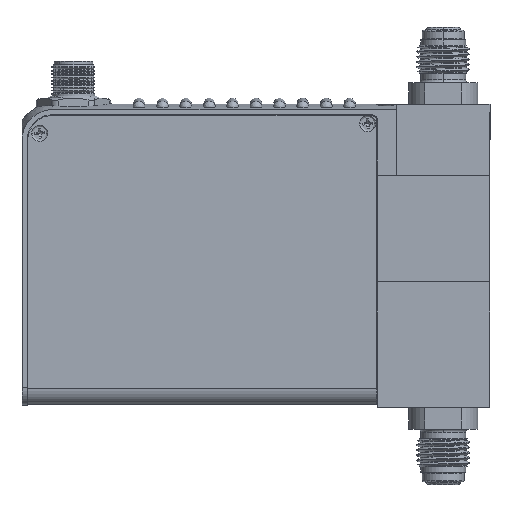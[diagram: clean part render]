
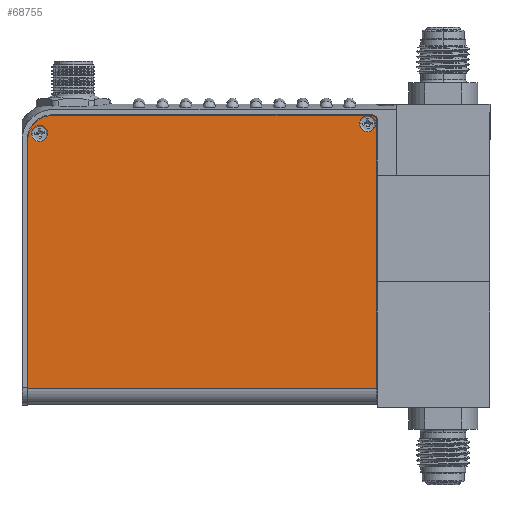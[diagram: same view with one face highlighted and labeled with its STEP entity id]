
A CAD part, left-side view. The second image highlights one B-rep face of the part: STEP entity #68755.
In plain terms, the highlighted planar face has unit normal (-1, 0, 0).
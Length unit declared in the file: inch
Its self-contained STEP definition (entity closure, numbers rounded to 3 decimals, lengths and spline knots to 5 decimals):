
#678 = CARTESIAN_POINT ( 'NONE',  ( -0.56, 4.8102, 1.31222 ) ) ;
#2310 = VERTEX_POINT ( 'NONE', #137760 ) ;
#2590 = VERTEX_POINT ( 'NONE', #63509 ) ;
#2808 = DIRECTION ( 'NONE',  ( 0., 1., 0. ) ) ;
#4505 = CARTESIAN_POINT ( 'NONE',  ( -0.56, 4.9392, -1.41678 ) ) ;
#5133 = VECTOR ( 'NONE', #74244, 39.37008 ) ;
#8573 = DIRECTION ( 'NONE',  ( 0., 0., 1. ) ) ;
#9500 = EDGE_CURVE ( 'NONE', #2590, #152010, #154108, .T. ) ;
#12966 = VERTEX_POINT ( 'NONE', #83302 ) ;
#22248 = LINE ( 'NONE', #69842, #81554 ) ;
#22576 = CARTESIAN_POINT ( 'NONE',  ( -0.56, 1.2202, 1.41422 ) ) ;
#25435 = CARTESIAN_POINT ( 'NONE',  ( -0.56, 4.8962, 1.31222 ) ) ;
#25564 = DIRECTION ( 'NONE',  ( -1., 0., 0. ) ) ;
#26704 = VECTOR ( 'NONE', #91748, 39.37008 ) ;
#30331 = CARTESIAN_POINT ( 'NONE',  ( -0.56, 1.3062, 1.41422 ) ) ;
#32598 = EDGE_CURVE ( 'NONE', #34434, #130167, #139900, .T. ) ;
#33258 = EDGE_CURVE ( 'NONE', #37865, #38595, #87309, .T. ) ;
#34434 = VERTEX_POINT ( 'NONE', #124012 ) ;
#35447 = DIRECTION ( 'NONE',  ( 0., 1., 0. ) ) ;
#35567 = EDGE_CURVE ( 'NONE', #152010, #2590, #92780, .T. ) ;
#36151 = AXIS2_PLACEMENT_3D ( 'NONE', #123652, #148589, #65140 ) ;
#37865 = VERTEX_POINT ( 'NONE', #22576 ) ;
#38366 = CARTESIAN_POINT ( 'NONE',  ( -0.56, 4.9392, -1.41678 ) ) ;
#38595 = VERTEX_POINT ( 'NONE', #51001 ) ;
#39025 = CARTESIAN_POINT ( 'NONE',  ( -0.56, 1.2712, 1.50222 ) ) ;
#39603 = DIRECTION ( 'NONE',  ( 1., 0., 0. ) ) ;
#43184 = AXIS2_PLACEMENT_3D ( 'NONE', #4505, #39603, #145675 ) ;
#43697 = CARTESIAN_POINT ( 'NONE',  ( -0.56, 4.9392, -1.41678 ) ) ;
#44431 = ORIENTED_EDGE ( 'NONE', *, *, #35567, .F. ) ;
#46692 = FACE_BOUND ( 'NONE', #114493, .T. ) ;
#48032 = ORIENTED_EDGE ( 'NONE', *, *, #145120, .F. ) ;
#51001 = CARTESIAN_POINT ( 'NONE',  ( -0.56, 1.3922, 1.41422 ) ) ;
#52098 = FACE_OUTER_BOUND ( 'NONE', #96575, .T. ) ;
#54285 = VERTEX_POINT ( 'NONE', #39025 ) ;
#55835 = AXIS2_PLACEMENT_3D ( 'NONE', #73787, #98758, #2808 ) ;
#57873 = CARTESIAN_POINT ( 'NONE',  ( -0.56, 1.2082, -1.41678 ) ) ;
#63509 = CARTESIAN_POINT ( 'NONE',  ( -0.56, 4.7242, 1.31222 ) ) ;
#63795 = FACE_BOUND ( 'NONE', #109410, .T. ) ;
#65140 = DIRECTION ( 'NONE',  ( 0., 0., -1. ) ) ;
#67258 = ORIENTED_EDGE ( 'NONE', *, *, #102340, .T. ) ;
#67839 = AXIS2_PLACEMENT_3D ( 'NONE', #84572, #142320, #35447 ) ;
#68755 = ADVANCED_FACE ( 'NONE', ( #46692, #63795, #52098 ), #123850, .F. ) ;
#69842 = CARTESIAN_POINT ( 'NONE',  ( -0.56, 4.9392, 1.50222 ) ) ;
#72125 = DIRECTION ( 'NONE',  ( 0., -1., 0. ) ) ;
#73245 = ORIENTED_EDGE ( 'NONE', *, *, #32598, .T. ) ;
#73787 = CARTESIAN_POINT ( 'NONE',  ( -0.56, 1.3062, 1.41422 ) ) ;
#74244 = DIRECTION ( 'NONE',  ( 0., -1., 0. ) ) ;
#74742 = DIRECTION ( 'NONE',  ( -1., 0., 0. ) ) ;
#75083 = ORIENTED_EDGE ( 'NONE', *, *, #117487, .F. ) ;
#76374 = CIRCLE ( 'NONE', #36151, 0.27 ) ;
#76441 = ORIENTED_EDGE ( 'NONE', *, *, #33258, .F. ) ;
#78463 = CARTESIAN_POINT ( 'NONE',  ( -0.56, 1.2082, -1.41678 ) ) ;
#81554 = VECTOR ( 'NONE', #72125, 39.37008 ) ;
#83202 = CIRCLE ( 'NONE', #55835, 0.086 ) ;
#83302 = CARTESIAN_POINT ( 'NONE',  ( -0.56, 4.6692, 1.50222 ) ) ;
#84572 = CARTESIAN_POINT ( 'NONE',  ( -0.56, 4.8102, 1.31222 ) ) ;
#87309 = CIRCLE ( 'NONE', #144648, 0.086 ) ;
#87369 = EDGE_CURVE ( 'NONE', #38595, #37865, #83202, .T. ) ;
#88096 = DIRECTION ( 'NONE',  ( -1., 0., 0. ) ) ;
#91176 = ORIENTED_EDGE ( 'NONE', *, *, #119368, .T. ) ;
#91748 = DIRECTION ( 'NONE',  ( 0., 0., 1. ) ) ;
#92780 = CIRCLE ( 'NONE', #67839, 0.086 ) ;
#92988 = ORIENTED_EDGE ( 'NONE', *, *, #122938, .T. ) ;
#96379 = ORIENTED_EDGE ( 'NONE', *, *, #87369, .F. ) ;
#96575 = EDGE_LOOP ( 'NONE', ( #91176, #92988, #48032, #67258, #75083, #73245 ) ) ;
#97526 = ORIENTED_EDGE ( 'NONE', *, *, #9500, .F. ) ;
#98758 = DIRECTION ( 'NONE',  ( -1., 0., 0. ) ) ;
#98910 = DIRECTION ( 'NONE',  ( 0., 0., -1. ) ) ;
#102340 = EDGE_CURVE ( 'NONE', #12966, #130189, #76374, .T. ) ;
#106209 = CARTESIAN_POINT ( 'NONE',  ( -0.56, 4.9392, 1.23222 ) ) ;
#109410 = EDGE_LOOP ( 'NONE', ( #44431, #97526 ) ) ;
#114493 = EDGE_LOOP ( 'NONE', ( #96379, #76441 ) ) ;
#117487 = EDGE_CURVE ( 'NONE', #34434, #130189, #126426, .T. ) ;
#119368 = EDGE_CURVE ( 'NONE', #130167, #2310, #138534, .T. ) ;
#121715 = AXIS2_PLACEMENT_3D ( 'NONE', #678, #74742, #146505 ) ;
#122938 = EDGE_CURVE ( 'NONE', #2310, #54285, #129390, .T. ) ;
#123652 = CARTESIAN_POINT ( 'NONE',  ( -0.56, 4.6692, 1.23222 ) ) ;
#123850 = PLANE ( 'NONE',  #43184 ) ;
#124012 = CARTESIAN_POINT ( 'NONE',  ( -0.56, 4.9392, -1.41678 ) ) ;
#126426 = LINE ( 'NONE', #43697, #138525 ) ;
#126953 = AXIS2_PLACEMENT_3D ( 'NONE', #144158, #25564, #98910 ) ;
#129390 = CIRCLE ( 'NONE', #126953, 0.063 ) ;
#130167 = VERTEX_POINT ( 'NONE', #57873 ) ;
#130189 = VERTEX_POINT ( 'NONE', #106209 ) ;
#136442 = DIRECTION ( 'NONE',  ( 0., 1., 0. ) ) ;
#137760 = CARTESIAN_POINT ( 'NONE',  ( -0.56, 1.2082, 1.43922 ) ) ;
#138525 = VECTOR ( 'NONE', #8573, 39.37008 ) ;
#138534 = LINE ( 'NONE', #78463, #26704 ) ;
#139900 = LINE ( 'NONE', #38366, #5133 ) ;
#142320 = DIRECTION ( 'NONE',  ( -1., 0., 0. ) ) ;
#144158 = CARTESIAN_POINT ( 'NONE',  ( -0.56, 1.2712, 1.43922 ) ) ;
#144648 = AXIS2_PLACEMENT_3D ( 'NONE', #30331, #88096, #136442 ) ;
#145120 = EDGE_CURVE ( 'NONE', #12966, #54285, #22248, .T. ) ;
#145675 = DIRECTION ( 'NONE',  ( 0., 0., -1. ) ) ;
#146505 = DIRECTION ( 'NONE',  ( 0., 1., 0. ) ) ;
#148589 = DIRECTION ( 'NONE',  ( -1., 0., 0. ) ) ;
#152010 = VERTEX_POINT ( 'NONE', #25435 ) ;
#154108 = CIRCLE ( 'NONE', #121715, 0.086 ) ;
